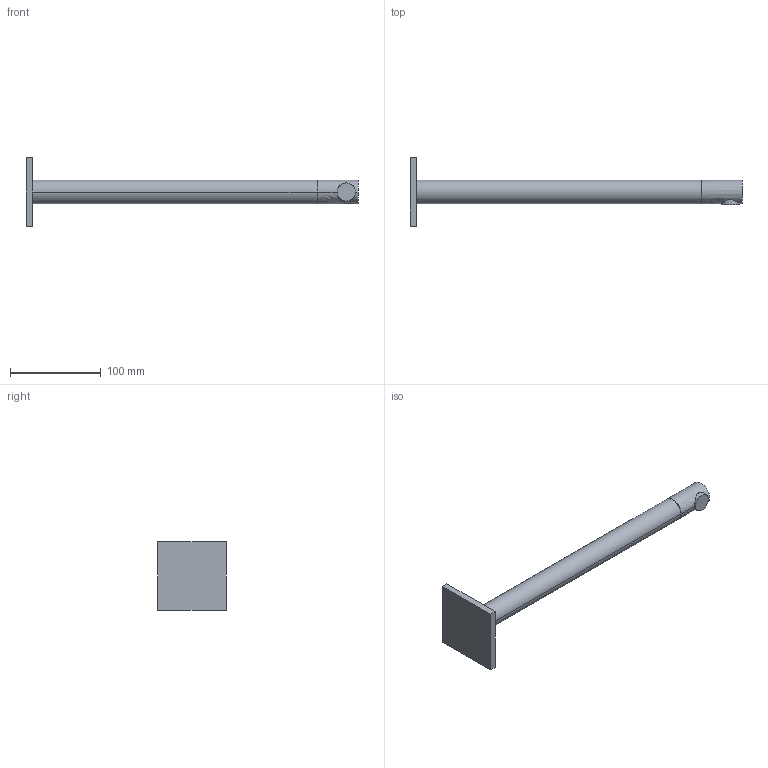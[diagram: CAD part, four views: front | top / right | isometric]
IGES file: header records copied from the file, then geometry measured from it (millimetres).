
Start section:  PTC IGES file: 26_000_813_xxx.igs
Global section: file name: 26_000_813_xxx.igs; native system: Creo Elements/Pro by Parametric Technology Corporation; preprocessor: 2011080; author: hpf; organization: Unknown; date: 20120113.133332; units: millimetre
Bounding box: 365 x 75 x 75 mm (x, y, z)
Volume: 225700.1 mm3; surface area: 42636.1 mm2
Topology: 1 solids, 1 shells, 18 faces, 37 edges, 24 vertices
Faces by surface type: bspline 10, revolution 8
